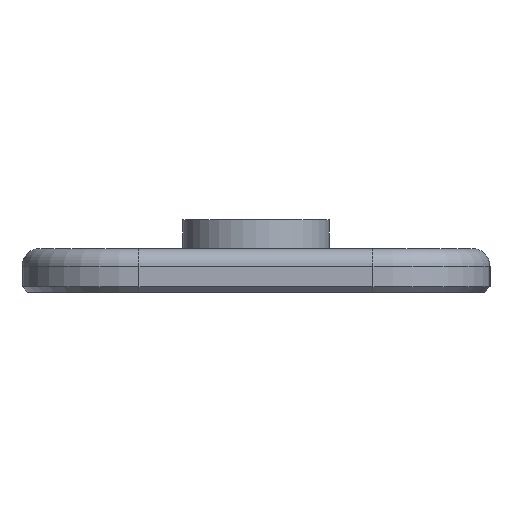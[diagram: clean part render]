
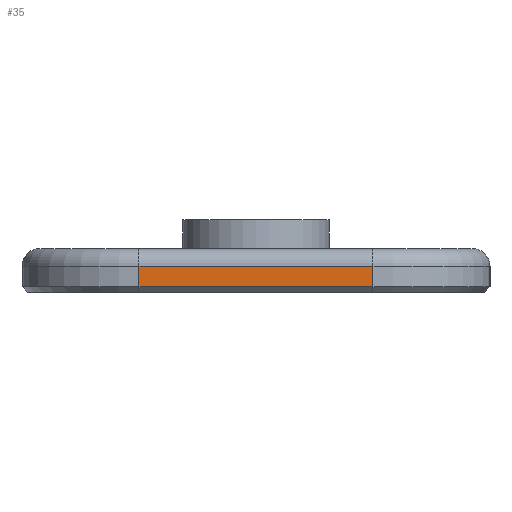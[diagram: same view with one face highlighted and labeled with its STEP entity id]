
A CAD part, left-side view. The second image highlights one B-rep face of the part: STEP entity #35.
In plain terms, the highlighted planar face has unit normal (-1, 0, 0).
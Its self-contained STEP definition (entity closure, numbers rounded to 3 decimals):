
#35 = ADVANCED_FACE('',(#36),#50,.T.);
#36 = FACE_BOUND('',#37,.T.);
#37 = EDGE_LOOP('',(#38,#73,#101,#129));
#38 = ORIENTED_EDGE('',*,*,#39,.T.);
#39 = EDGE_CURVE('',#40,#42,#44,.T.);
#40 = VERTEX_POINT('',#41);
#41 = CARTESIAN_POINT('',(-62.,-4.,0.2));
#42 = VERTEX_POINT('',#43);
#43 = CARTESIAN_POINT('',(-62.,-4.,0.9));
#44 = SURFACE_CURVE('',#45,(#49,#61),.PCURVE_S1.);
#45 = LINE('',#46,#47);
#46 = CARTESIAN_POINT('',(-62.,-4.,0.));
#47 = VECTOR('',#48,1.);
#48 = DIRECTION('',(0.,0.,1.));
#49 = PCURVE('',#50,#55);
#50 = PLANE('',#51);
#51 = AXIS2_PLACEMENT_3D('',#52,#53,#54);
#52 = CARTESIAN_POINT('',(-62.,-4.,0.));
#53 = DIRECTION('',(-1.,0.,0.));
#54 = DIRECTION('',(0.,1.,0.));
#55 = DEFINITIONAL_REPRESENTATION('',(#56),#60);
#56 = LINE('',#57,#58);
#57 = CARTESIAN_POINT('',(0.,0.));
#58 = VECTOR('',#59,1.);
#59 = DIRECTION('',(0.,-1.));
#60 = ( GEOMETRIC_REPRESENTATION_CONTEXT(2) 
PARAMETRIC_REPRESENTATION_CONTEXT() REPRESENTATION_CONTEXT('2D SPACE',''
  ) );
#61 = PCURVE('',#62,#67);
#62 = CYLINDRICAL_SURFACE('',#63,4.);
#63 = AXIS2_PLACEMENT_3D('',#64,#65,#66);
#64 = CARTESIAN_POINT('',(-58.,-4.,0.));
#65 = DIRECTION('',(0.,0.,-1.));
#66 = DIRECTION('',(-1.,0.,0.));
#67 = DEFINITIONAL_REPRESENTATION('',(#68),#72);
#68 = LINE('',#69,#70);
#69 = CARTESIAN_POINT('',(6.283,0.));
#70 = VECTOR('',#71,1.);
#71 = DIRECTION('',(0.,-1.));
#72 = ( GEOMETRIC_REPRESENTATION_CONTEXT(2) 
PARAMETRIC_REPRESENTATION_CONTEXT() REPRESENTATION_CONTEXT('2D SPACE',''
  ) );
#73 = ORIENTED_EDGE('',*,*,#74,.T.);
#74 = EDGE_CURVE('',#42,#75,#77,.T.);
#75 = VERTEX_POINT('',#76);
#76 = CARTESIAN_POINT('',(-62.,4.,0.9));
#77 = SURFACE_CURVE('',#78,(#82,#89),.PCURVE_S1.);
#78 = LINE('',#79,#80);
#79 = CARTESIAN_POINT('',(-62.,-4.,0.9));
#80 = VECTOR('',#81,1.);
#81 = DIRECTION('',(0.,1.,0.));
#82 = PCURVE('',#50,#83);
#83 = DEFINITIONAL_REPRESENTATION('',(#84),#88);
#84 = LINE('',#85,#86);
#85 = CARTESIAN_POINT('',(0.,-0.9));
#86 = VECTOR('',#87,1.);
#87 = DIRECTION('',(1.,0.));
#88 = ( GEOMETRIC_REPRESENTATION_CONTEXT(2) 
PARAMETRIC_REPRESENTATION_CONTEXT() REPRESENTATION_CONTEXT('2D SPACE',''
  ) );
#89 = PCURVE('',#90,#95);
#90 = CYLINDRICAL_SURFACE('',#91,0.6);
#91 = AXIS2_PLACEMENT_3D('',#92,#93,#94);
#92 = CARTESIAN_POINT('',(-61.4,-4.,0.9));
#93 = DIRECTION('',(0.,1.,0.));
#94 = DIRECTION('',(-1.,0.,0.));
#95 = DEFINITIONAL_REPRESENTATION('',(#96),#100);
#96 = LINE('',#97,#98);
#97 = CARTESIAN_POINT('',(0.,0.));
#98 = VECTOR('',#99,1.);
#99 = DIRECTION('',(0.,1.));
#100 = ( GEOMETRIC_REPRESENTATION_CONTEXT(2) 
PARAMETRIC_REPRESENTATION_CONTEXT() REPRESENTATION_CONTEXT('2D SPACE',''
  ) );
#101 = ORIENTED_EDGE('',*,*,#102,.F.);
#102 = EDGE_CURVE('',#103,#75,#105,.T.);
#103 = VERTEX_POINT('',#104);
#104 = CARTESIAN_POINT('',(-62.,4.,0.2));
#105 = SURFACE_CURVE('',#106,(#110,#117),.PCURVE_S1.);
#106 = LINE('',#107,#108);
#107 = CARTESIAN_POINT('',(-62.,4.,0.));
#108 = VECTOR('',#109,1.);
#109 = DIRECTION('',(0.,0.,1.));
#110 = PCURVE('',#50,#111);
#111 = DEFINITIONAL_REPRESENTATION('',(#112),#116);
#112 = LINE('',#113,#114);
#113 = CARTESIAN_POINT('',(8.,0.));
#114 = VECTOR('',#115,1.);
#115 = DIRECTION('',(0.,-1.));
#116 = ( GEOMETRIC_REPRESENTATION_CONTEXT(2) 
PARAMETRIC_REPRESENTATION_CONTEXT() REPRESENTATION_CONTEXT('2D SPACE',''
  ) );
#117 = PCURVE('',#118,#123);
#118 = CYLINDRICAL_SURFACE('',#119,4.);
#119 = AXIS2_PLACEMENT_3D('',#120,#121,#122);
#120 = CARTESIAN_POINT('',(-58.,4.,0.));
#121 = DIRECTION('',(0.,0.,-1.));
#122 = DIRECTION('',(-1.,0.,0.));
#123 = DEFINITIONAL_REPRESENTATION('',(#124),#128);
#124 = LINE('',#125,#126);
#125 = CARTESIAN_POINT('',(0.,0.));
#126 = VECTOR('',#127,1.);
#127 = DIRECTION('',(0.,-1.));
#128 = ( GEOMETRIC_REPRESENTATION_CONTEXT(2) 
PARAMETRIC_REPRESENTATION_CONTEXT() REPRESENTATION_CONTEXT('2D SPACE',''
  ) );
#129 = ORIENTED_EDGE('',*,*,#130,.F.);
#130 = EDGE_CURVE('',#40,#103,#131,.T.);
#131 = SURFACE_CURVE('',#132,(#136,#143),.PCURVE_S1.);
#132 = LINE('',#133,#134);
#133 = CARTESIAN_POINT('',(-62.,-4.,0.2));
#134 = VECTOR('',#135,1.);
#135 = DIRECTION('',(0.,1.,0.));
#136 = PCURVE('',#50,#137);
#137 = DEFINITIONAL_REPRESENTATION('',(#138),#142);
#138 = LINE('',#139,#140);
#139 = CARTESIAN_POINT('',(0.,-0.2));
#140 = VECTOR('',#141,1.);
#141 = DIRECTION('',(1.,0.));
#142 = ( GEOMETRIC_REPRESENTATION_CONTEXT(2) 
PARAMETRIC_REPRESENTATION_CONTEXT() REPRESENTATION_CONTEXT('2D SPACE',''
  ) );
#143 = PCURVE('',#144,#149);
#144 = PLANE('',#145);
#145 = AXIS2_PLACEMENT_3D('',#146,#147,#148);
#146 = CARTESIAN_POINT('',(-61.9,-4.,0.1));
#147 = DIRECTION('',(0.707,0.,0.707)
  );
#148 = DIRECTION('',(0.,-1.,0.));
#149 = DEFINITIONAL_REPRESENTATION('',(#150),#154);
#150 = LINE('',#151,#152);
#151 = CARTESIAN_POINT('',(-0.,-0.141));
#152 = VECTOR('',#153,1.);
#153 = DIRECTION('',(-1.,0.));
#154 = ( GEOMETRIC_REPRESENTATION_CONTEXT(2) 
PARAMETRIC_REPRESENTATION_CONTEXT() REPRESENTATION_CONTEXT('2D SPACE',''
  ) );
